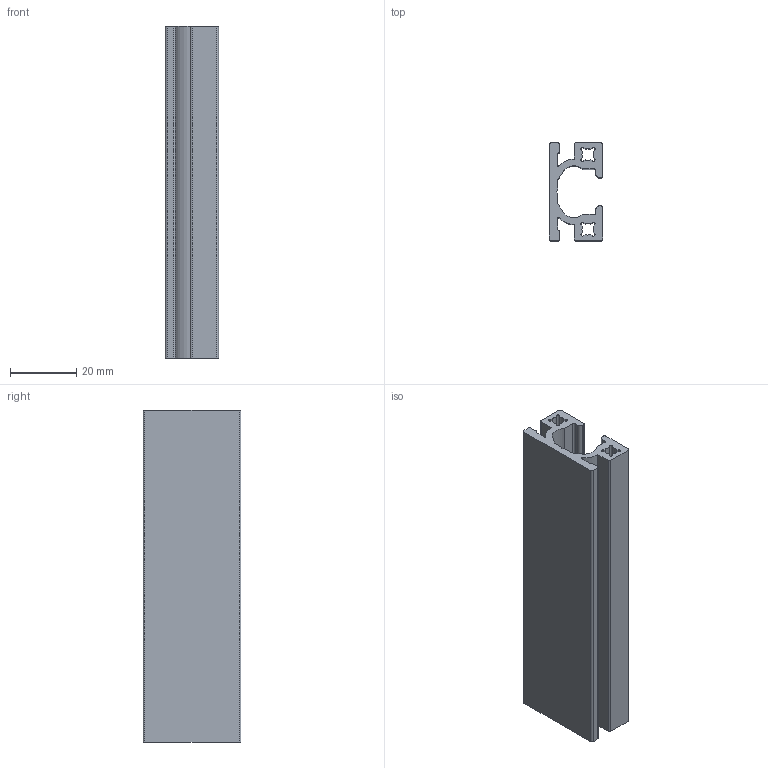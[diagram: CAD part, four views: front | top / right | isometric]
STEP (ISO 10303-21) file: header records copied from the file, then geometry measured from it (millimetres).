
FILE_DESCRIPTION(/* description */ (''),/* implementation_level */ '2;1');
FILE_NAME(/* name */ 'C:\Users\apromt\Desktop\tekeningen\stp\SG1100030001.stp',/* time_stamp */ '2021-11-11T08:29:43+01:00',/* author */ ('APromt'),/* organization */ ('BCK Holland b.v.'),/* preprocessor_version */ 'ST-DEVELOPER v18.1',/* originating_system */ 'Autodesk Inventor 2021',/* authorisation */ '');
FILE_SCHEMA (('AUTOMOTIVE_DESIGN { 1 0 10303 214 3 1 1 }'));
Length unit declared in the file: millimetre
Products named in the file (2): Assembly3; SG1100030001
Assembly tree (1 placements, depth 2):
  Assembly3
    SG1100030001
Bounding box: 16 x 29.5 x 100 mm (x, y, z)
Volume: 21531.7 mm3; surface area: 19028.5 mm2
Topology: 1 solids, 1 shells, 101 faces, 297 edges, 198 vertices
Faces by surface type: cylinder 56, plane 45
Entity records: 3478 total; most frequent: DIRECTION 617, CARTESIAN_POINT 599, ORIENTED_EDGE 594, EDGE_CURVE 297, AXIS2_PLACEMENT_3D 216, VERTEX_POINT 198, LINE 185, VECTOR 185
